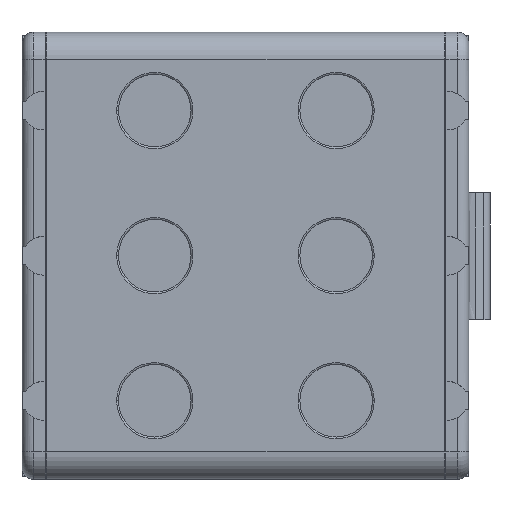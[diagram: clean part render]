
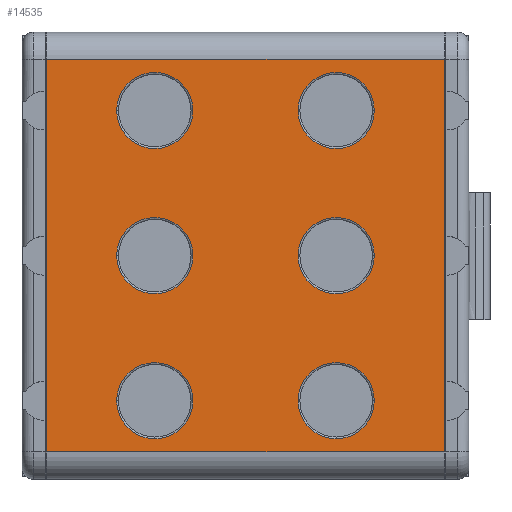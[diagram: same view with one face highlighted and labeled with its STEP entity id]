
A CAD part, top view. The second image highlights one B-rep face of the part: STEP entity #14535.
In plain terms, the highlighted planar face has unit normal (0, 0, 1).
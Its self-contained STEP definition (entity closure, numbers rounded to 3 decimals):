
#10301=CARTESIAN_POINT('',(-10.,16.,3.4));
#10302=DIRECTION('',(0.,0.,-1.));
#10303=DIRECTION('',(1.,0.,0.));
#10304=AXIS2_PLACEMENT_3D('',#10301,#10302,#10303);
#10306=CARTESIAN_POINT('',(-10.,16.,3.4));
#10307=DIRECTION('',(0.,0.,-1.));
#10308=DIRECTION('',(-1.,0.,0.));
#10309=AXIS2_PLACEMENT_3D('',#10306,#10307,#10308);
#10311=CARTESIAN_POINT('',(-10.,0.,3.4));
#10312=DIRECTION('',(0.,0.,-1.));
#10313=DIRECTION('',(-1.,0.,0.));
#10314=AXIS2_PLACEMENT_3D('',#10311,#10312,#10313);
#10316=CARTESIAN_POINT('',(-10.,0.,3.4));
#10317=DIRECTION('',(0.,0.,-1.));
#10318=DIRECTION('',(1.,0.,0.));
#10319=AXIS2_PLACEMENT_3D('',#10316,#10317,#10318);
#10321=CARTESIAN_POINT('',(-10.,-16.,3.4));
#10322=DIRECTION('',(0.,0.,-1.));
#10323=DIRECTION('',(1.,0.,0.));
#10324=AXIS2_PLACEMENT_3D('',#10321,#10322,#10323);
#10326=CARTESIAN_POINT('',(-10.,-16.,3.4));
#10327=DIRECTION('',(0.,0.,-1.));
#10328=DIRECTION('',(-1.,0.,0.));
#10329=AXIS2_PLACEMENT_3D('',#10326,#10327,#10328);
#10331=CARTESIAN_POINT('',(10.,-16.,3.4));
#10332=DIRECTION('',(0.,0.,-1.));
#10333=DIRECTION('',(1.,0.,0.));
#10334=AXIS2_PLACEMENT_3D('',#10331,#10332,#10333);
#10336=CARTESIAN_POINT('',(10.,-16.,3.4));
#10337=DIRECTION('',(0.,0.,-1.));
#10338=DIRECTION('',(-1.,0.,0.));
#10339=AXIS2_PLACEMENT_3D('',#10336,#10337,#10338);
#10341=CARTESIAN_POINT('',(10.,0.,3.4));
#10342=DIRECTION('',(0.,0.,-1.));
#10343=DIRECTION('',(1.,0.,0.));
#10344=AXIS2_PLACEMENT_3D('',#10341,#10342,#10343);
#10346=CARTESIAN_POINT('',(10.,0.,3.4));
#10347=DIRECTION('',(0.,0.,-1.));
#10348=DIRECTION('',(-1.,0.,0.));
#10349=AXIS2_PLACEMENT_3D('',#10346,#10347,#10348);
#10351=CARTESIAN_POINT('',(10.,16.,3.4));
#10352=DIRECTION('',(0.,0.,-1.));
#10353=DIRECTION('',(1.,0.,0.));
#10354=AXIS2_PLACEMENT_3D('',#10351,#10352,#10353);
#10356=CARTESIAN_POINT('',(10.,16.,3.4));
#10357=DIRECTION('',(0.,0.,-1.));
#10358=DIRECTION('',(-1.,0.,0.));
#10359=AXIS2_PLACEMENT_3D('',#10356,#10357,#10358);
#10361=DIRECTION('',(0.,1.,0.));
#10362=VECTOR('',#10361,43.3);
#10363=CARTESIAN_POINT('',(21.904,-21.65,3.4));
#10364=LINE('',#10363,#10362);
#10365=DIRECTION('',(1.,0.,0.));
#10366=VECTOR('',#10365,43.808);
#10367=CARTESIAN_POINT('',(-21.904,-21.65,3.4));
#10368=LINE('',#10367,#10366);
#10369=DIRECTION('',(0.,1.,0.));
#10370=VECTOR('',#10369,43.3);
#10371=CARTESIAN_POINT('',(-21.904,-21.65,3.4));
#10372=LINE('',#10371,#10370);
#10373=DIRECTION('',(-1.,0.,0.));
#10374=VECTOR('',#10373,43.808);
#10375=CARTESIAN_POINT('',(21.904,21.65,3.4));
#10376=LINE('',#10375,#10374);
#12840=CARTESIAN_POINT('',(-5.8,16.,3.4));
#12841=CARTESIAN_POINT('',(-14.2,16.,3.4));
#12842=VERTEX_POINT('',#12840);
#12843=VERTEX_POINT('',#12841);
#12848=CARTESIAN_POINT('',(-14.2,0.,3.4));
#12849=CARTESIAN_POINT('',(-5.8,0.,3.4));
#12850=VERTEX_POINT('',#12848);
#12851=VERTEX_POINT('',#12849);
#12856=CARTESIAN_POINT('',(-5.8,-16.,3.4));
#12857=CARTESIAN_POINT('',(-14.2,-16.,3.4));
#12858=VERTEX_POINT('',#12856);
#12859=VERTEX_POINT('',#12857);
#12864=CARTESIAN_POINT('',(14.2,-16.,3.4));
#12865=CARTESIAN_POINT('',(5.8,-16.,3.4));
#12866=VERTEX_POINT('',#12864);
#12867=VERTEX_POINT('',#12865);
#12872=CARTESIAN_POINT('',(14.2,0.,3.4));
#12873=CARTESIAN_POINT('',(5.8,0.,3.4));
#12874=VERTEX_POINT('',#12872);
#12875=VERTEX_POINT('',#12873);
#12880=CARTESIAN_POINT('',(14.2,16.,3.4));
#12881=CARTESIAN_POINT('',(5.8,16.,3.4));
#12882=VERTEX_POINT('',#12880);
#12883=VERTEX_POINT('',#12881);
#12896=CARTESIAN_POINT('',(21.904,21.65,3.4));
#12897=VERTEX_POINT('',#12896);
#12900=CARTESIAN_POINT('',(21.904,-21.65,3.4));
#12901=VERTEX_POINT('',#12900);
#12922=CARTESIAN_POINT('',(-21.904,21.65,3.4));
#12923=VERTEX_POINT('',#12922);
#12926=CARTESIAN_POINT('',(-21.904,-21.65,3.4));
#12927=VERTEX_POINT('',#12926);
#14485=CARTESIAN_POINT('',(-22.104,21.05,3.4));
#14486=DIRECTION('',(0.,0.,1.));
#14487=DIRECTION('',(0.,-1.,0.));
#14488=AXIS2_PLACEMENT_3D('',#14485,#14486,#14487);
#14489=PLANE('',#14488);
#14491=ORIENTED_EDGE('',*,*,#14490,.F.);
#14493=ORIENTED_EDGE('',*,*,#14492,.F.);
#14495=ORIENTED_EDGE('',*,*,#14494,.T.);
#14497=ORIENTED_EDGE('',*,*,#14496,.F.);
#14498=EDGE_LOOP('',(#14491,#14493,#14495,#14497));
#14499=FACE_OUTER_BOUND('',#14498,.F.);
#14501=ORIENTED_EDGE('',*,*,#14500,.F.);
#14503=ORIENTED_EDGE('',*,*,#14502,.F.);
#14504=EDGE_LOOP('',(#14501,#14503));
#14505=FACE_BOUND('',#14504,.F.);
#14507=ORIENTED_EDGE('',*,*,#14506,.F.);
#14509=ORIENTED_EDGE('',*,*,#14508,.F.);
#14510=EDGE_LOOP('',(#14507,#14509));
#14511=FACE_BOUND('',#14510,.F.);
#14513=ORIENTED_EDGE('',*,*,#14512,.F.);
#14515=ORIENTED_EDGE('',*,*,#14514,.F.);
#14516=EDGE_LOOP('',(#14513,#14515));
#14517=FACE_BOUND('',#14516,.F.);
#14519=ORIENTED_EDGE('',*,*,#14518,.F.);
#14521=ORIENTED_EDGE('',*,*,#14520,.F.);
#14522=EDGE_LOOP('',(#14519,#14521));
#14523=FACE_BOUND('',#14522,.F.);
#14525=ORIENTED_EDGE('',*,*,#14524,.F.);
#14526=ORIENTED_EDGE('',*,*,#14475,.F.);
#14527=EDGE_LOOP('',(#14525,#14526));
#14528=FACE_BOUND('',#14527,.F.);
#14530=ORIENTED_EDGE('',*,*,#14529,.F.);
#14532=ORIENTED_EDGE('',*,*,#14531,.F.);
#14533=EDGE_LOOP('',(#14530,#14532));
#14534=FACE_BOUND('',#14533,.F.);
#10305=CIRCLE('',#10304,4.2);
#10310=CIRCLE('',#10309,4.2);
#10315=CIRCLE('',#10314,4.2);
#10320=CIRCLE('',#10319,4.2);
#10325=CIRCLE('',#10324,4.2);
#10330=CIRCLE('',#10329,4.2);
#10335=CIRCLE('',#10334,4.2);
#10340=CIRCLE('',#10339,4.2);
#10345=CIRCLE('',#10344,4.2);
#10350=CIRCLE('',#10349,4.2);
#10355=CIRCLE('',#10354,4.2);
#10360=CIRCLE('',#10359,4.2);
#14475=EDGE_CURVE('',#12883,#12882,#10360,.T.);
#14490=EDGE_CURVE('',#12901,#12897,#10364,.T.);
#14492=EDGE_CURVE('',#12927,#12901,#10368,.T.);
#14494=EDGE_CURVE('',#12927,#12923,#10372,.T.);
#14496=EDGE_CURVE('',#12897,#12923,#10376,.T.);
#14500=EDGE_CURVE('',#12850,#12851,#10315,.T.);
#14502=EDGE_CURVE('',#12851,#12850,#10320,.T.);
#14506=EDGE_CURVE('',#12858,#12859,#10325,.T.);
#14508=EDGE_CURVE('',#12859,#12858,#10330,.T.);
#14512=EDGE_CURVE('',#12866,#12867,#10335,.T.);
#14514=EDGE_CURVE('',#12867,#12866,#10340,.T.);
#14518=EDGE_CURVE('',#12874,#12875,#10345,.T.);
#14520=EDGE_CURVE('',#12875,#12874,#10350,.T.);
#14524=EDGE_CURVE('',#12882,#12883,#10355,.T.);
#14529=EDGE_CURVE('',#12842,#12843,#10305,.T.);
#14531=EDGE_CURVE('',#12843,#12842,#10310,.T.);
#14535=ADVANCED_FACE('',(#14499,#14505,#14511,#14517,#14523,#14528,#14534),
#14489,.T.);
